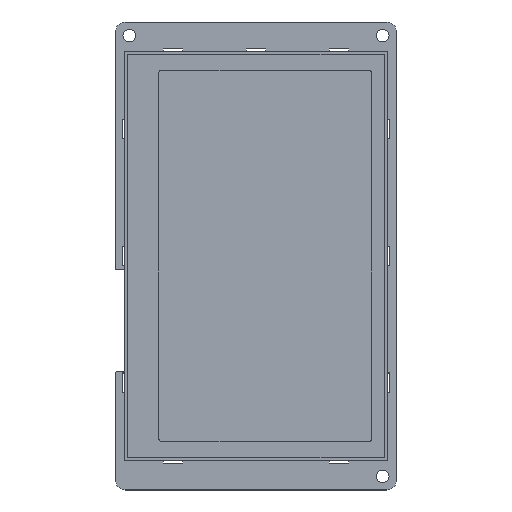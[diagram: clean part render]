
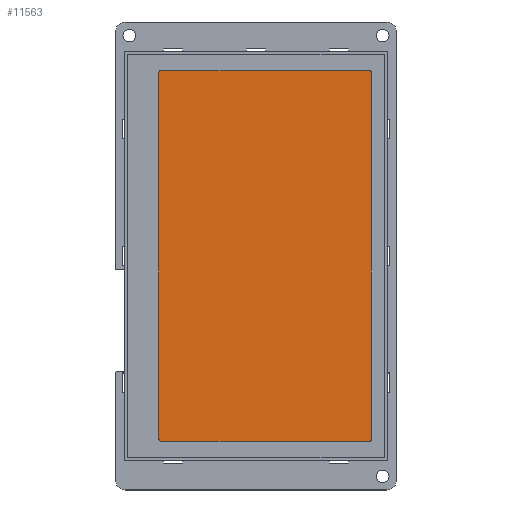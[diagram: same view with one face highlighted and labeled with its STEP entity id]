
A CAD part, top view. The second image highlights one B-rep face of the part: STEP entity #11563.
In plain terms, the highlighted planar face has unit normal (0, 0, 1).
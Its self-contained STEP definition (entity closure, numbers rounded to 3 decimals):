
#3527=CARTESIAN_POINT('',(29.562,-47.775,8.225));
#3528=DIRECTION('',(0.,0.,1.));
#3529=DIRECTION('',(0.,-1.,0.));
#3530=AXIS2_PLACEMENT_3D('',#3527,#3528,#3529);
#3532=DIRECTION('',(1.,0.,0.));
#3533=VECTOR('',#3532,54.36);
#3534=CARTESIAN_POINT('',(-24.798,-48.275,8.225));
#3535=LINE('',#3534,#3533);
#3536=CARTESIAN_POINT('',(-24.798,-47.775,8.225));
#3537=DIRECTION('',(0.,0.,1.));
#3538=DIRECTION('',(-1.,0.,0.));
#3539=AXIS2_PLACEMENT_3D('',#3536,#3537,#3538);
#3541=DIRECTION('',(0.,-1.,0.));
#3542=VECTOR('',#3541,95.54);
#3543=CARTESIAN_POINT('',(-25.298,47.765,8.225));
#3544=LINE('',#3543,#3542);
#3545=CARTESIAN_POINT('',(-24.798,47.765,8.225));
#3546=DIRECTION('',(0.,0.,1.));
#3547=DIRECTION('',(0.,1.,0.));
#3548=AXIS2_PLACEMENT_3D('',#3545,#3546,#3547);
#3550=DIRECTION('',(-1.,0.,0.));
#3551=VECTOR('',#3550,54.36);
#3552=CARTESIAN_POINT('',(29.562,48.265,8.225));
#3553=LINE('',#3552,#3551);
#3554=CARTESIAN_POINT('',(29.562,47.765,8.225));
#3555=DIRECTION('',(0.,0.,1.));
#3556=DIRECTION('',(1.,0.,0.));
#3557=AXIS2_PLACEMENT_3D('',#3554,#3555,#3556);
#3559=DIRECTION('',(0.,1.,0.));
#3560=VECTOR('',#3559,95.54);
#3561=CARTESIAN_POINT('',(30.062,-47.775,8.225));
#3562=LINE('',#3561,#3560);
#4201=CARTESIAN_POINT('',(29.562,-48.275,8.225));
#4202=CARTESIAN_POINT('',(30.062,-47.775,8.225));
#4203=VERTEX_POINT('',#4201);
#4204=VERTEX_POINT('',#4202);
#4205=CARTESIAN_POINT('',(30.062,47.765,8.225));
#4206=VERTEX_POINT('',#4205);
#4207=CARTESIAN_POINT('',(29.562,48.265,8.225));
#4208=VERTEX_POINT('',#4207);
#4209=CARTESIAN_POINT('',(-24.798,48.265,8.225));
#4210=VERTEX_POINT('',#4209);
#4211=CARTESIAN_POINT('',(-25.298,47.765,8.225));
#4212=VERTEX_POINT('',#4211);
#4213=CARTESIAN_POINT('',(-25.298,-47.775,8.225));
#4214=VERTEX_POINT('',#4213);
#4215=CARTESIAN_POINT('',(-24.798,-48.275,8.225));
#4216=VERTEX_POINT('',#4215);
#11548=CARTESIAN_POINT('',(-33.558,-52.305,8.225));
#11549=DIRECTION('',(0.,0.,1.));
#11550=DIRECTION('',(0.,-1.,0.));
#11551=AXIS2_PLACEMENT_3D('',#11548,#11549,#11550);
#11552=PLANE('',#11551);
#11553=ORIENTED_EDGE('',*,*,#11444,.F.);
#11554=ORIENTED_EDGE('',*,*,#11459,.F.);
#11555=ORIENTED_EDGE('',*,*,#11473,.F.);
#11556=ORIENTED_EDGE('',*,*,#11487,.F.);
#11557=ORIENTED_EDGE('',*,*,#11501,.F.);
#11558=ORIENTED_EDGE('',*,*,#11515,.F.);
#11559=ORIENTED_EDGE('',*,*,#11529,.F.);
#11560=ORIENTED_EDGE('',*,*,#11542,.F.);
#11561=EDGE_LOOP('',(#11553,#11554,#11555,#11556,#11557,#11558,#11559,#11560));
#11562=FACE_OUTER_BOUND('',#11561,.F.);
#3531=CIRCLE('',#3530,0.5);
#3540=CIRCLE('',#3539,0.5);
#3549=CIRCLE('',#3548,0.5);
#3558=CIRCLE('',#3557,0.5);
#11444=EDGE_CURVE('',#4203,#4204,#3531,.T.);
#11459=EDGE_CURVE('',#4216,#4203,#3535,.T.);
#11473=EDGE_CURVE('',#4214,#4216,#3540,.T.);
#11487=EDGE_CURVE('',#4212,#4214,#3544,.T.);
#11501=EDGE_CURVE('',#4210,#4212,#3549,.T.);
#11515=EDGE_CURVE('',#4208,#4210,#3553,.T.);
#11529=EDGE_CURVE('',#4206,#4208,#3558,.T.);
#11542=EDGE_CURVE('',#4204,#4206,#3562,.T.);
#11563=ADVANCED_FACE('',(#11562),#11552,.T.);
